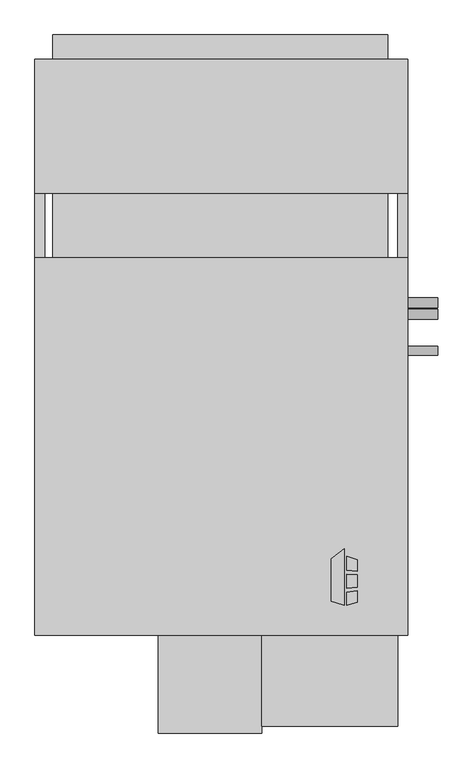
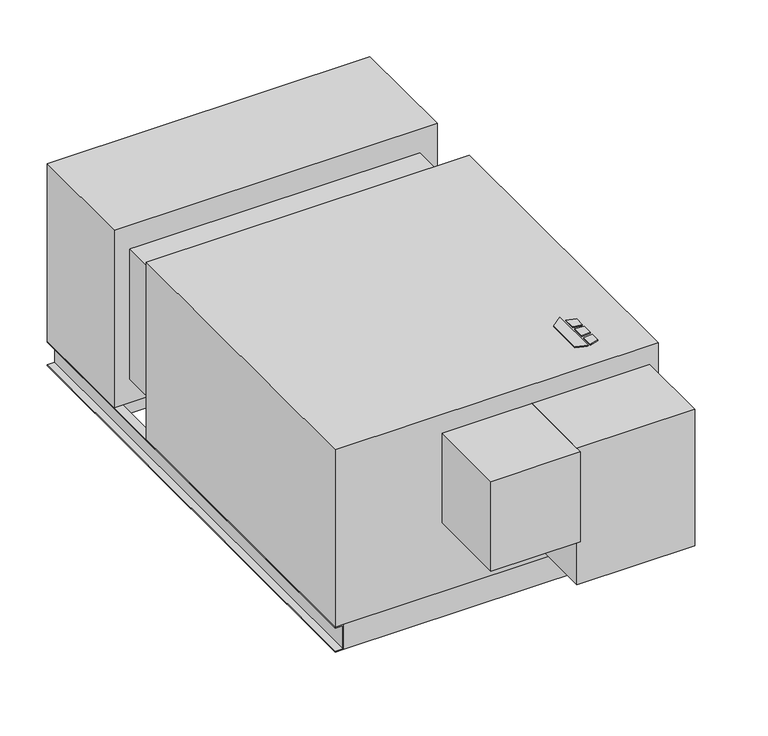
"""IFC4 building model written with IfcOpenShell, lengths in millimetres: proxy geometry, Horizontal_Direct_Drive_Blower_Coil_Unit_-_HDY_-_IEC_-_2-Pipe_Cool-EHeat_NFilterR_W-MixingBox_RH_2022 : Size 10 - 460v/60Hz/3Ph - 8 Row 9.9kW LH."""

from ifc_helpers import new_model, si_unit, point, frame, frame_2d, origin, origin_with_axes, place, context, project, spatial, polyline, circle_curve, trimmed, segment, composite_curve, outline, extrude, source, transform, mapped, element, save


def mechanical_equipment_a0d32894(model_context):
    return source(origin(), model_context, "Body", "SweptSolid", [
        extrude(outline(polyline([(-319.3980239, -267.6578476), (-286.8397272, -242.2205184), (-286.8397272, -384.175), (-319.3980239, -373.9554201), (-319.3980239, -267.6578476)])), origin_with_axes(), (0.0, 0.0, 1.0), 3.175),
        extrude(outline(polyline([(-280.0813942, -295.529852), (-280.0813942, -261.0499379), (-254.0, -269.2365115), (-254.0, -298.7322446), (-280.0813942, -295.529852)])), origin_with_axes(), (0.0, 0.0, 1.0), 3.175),
        extrude(outline(polyline([(-254.0, -377.1865115), (-280.0813942, -384.175), (-280.0813942, -350.9536996), (-254.0, -347.4118564), (-254.0, -377.1865115)])), origin_with_axes(), (0.0, 0.0, 1.0), 3.175),
        extrude(outline(polyline([(-254.0, -307.8138277), (-254.0, -339.063983), (-280.0813942, -341.805248), (-280.0813942, -305.9475378), (-254.0, -307.8138277)])), origin_with_axes(), (0.0, 0.0, 1.0), 3.175),
        extrude(outline(polyline([(-177.8, 890.905), (-177.8, 687.705), (-1022.35, 687.705), (-1022.35, 890.905), (-177.8, 890.905)])), frame((0.0, 0.0, -607.06), z_axis=(0.0, 0.0, 1.0), x_axis=(1.0, 0.0, 0.0)), (0.0, 0.0, 1.0), 60.96),
        extrude(outline(polyline([(-1022.35, 1053.465), (-177.8, 1053.465), (-177.8, 992.505), (-1022.35, 992.505), (-1022.35, 1053.465)])), frame((0.0, 0.0, -279.4), z_axis=(0.0, 0.0, 1.0), x_axis=(1.0, 0.0, 0.0)), (0.0, 0.0, 1.0), 203.2),
        extrude(outline(polyline([(-127.0, 992.505), (-127.0, 654.05), (-1066.8, 654.05), (-1066.8, 992.505), (-127.0, 992.505)])), frame((0.0, 0.0, -546.1), z_axis=(0.0, 0.0, 1.0), x_axis=(1.0, 0.0, 0.0)), (0.0, 0.0, 1.0), 546.1),
        extrude(outline(polyline([(-152.4, -434.975), (-152.4, -460.375), (-1041.4, -460.375), (-1041.4, -434.975), (-152.4, -434.975)])), frame((0.0, 0.0, -622.3), z_axis=(0.0, 0.0, 1.0), x_axis=(1.0, 0.0, 0.0)), (0.0, 0.0, 1.0), 76.2),
        extrude(outline(polyline([(-152.4, 992.505), (-152.4, 967.105), (-1041.4, 967.105), (-1041.4, 992.505), (-152.4, 992.505)])), frame((0.0, 0.0, -622.3), z_axis=(0.0, 0.0, 1.0), x_axis=(1.0, 0.0, 0.0)), (0.0, 0.0, 1.0), 76.2),
        extrude(outline(polyline([(-546.1, -1041.4), (-546.1, -1066.8), (-549.275, -1066.8), (-549.275, -1044.575), (-619.125, -1044.575), (-619.125, -1066.8), (-622.3, -1066.8), (-622.3, -1041.4), (-546.1, -1041.4)])), frame((0.0, -460.375, 0.0), z_axis=(0.0, 1.0, 0.0), x_axis=(0.0, 0.0, 1.0)), (0.0, 0.0, 1.0), 1452.88),
        extrude(outline(polyline([(-546.1, -152.4), (-622.3, -152.4), (-622.3, -127.0), (-619.125, -127.0), (-619.125, -149.225), (-549.275, -149.225), (-549.275, -127.0), (-546.1, -127.0), (-546.1, -152.4)])), frame((0.0, -460.375, 0.0), z_axis=(0.0, 1.0, 0.0), x_axis=(0.0, 0.0, 1.0)), (0.0, 0.0, 1.0), 1452.88),
        extrude(outline(composite_curve([segment(trimmed(circle_curve(frame_2d((377.825, -177.8)), 12.7), [point((390.525, -177.8))], [point((365.125, -177.8))], False, "CARTESIAN"), True, "CONTINUOUS"), segment(trimmed(circle_curve(frame_2d((377.825, -177.8)), 12.7), [point((365.125, -177.8))], [point((390.525, -177.8))], False, "CARTESIAN"), True, "CONTINUOUS")], self_intersect=False)), frame((-127.0, 0.0, 0.0), z_axis=(1.0, 0.0, 0.0), x_axis=(0.0, 1.0, 0.0)), (0.0, 0.0, 1.0), 76.2),
        extrude(outline(composite_curve([segment(trimmed(circle_curve(frame_2d((348.9715397, -419.1)), 12.7), [point((361.6715397, -419.1))], [point((336.2715397, -419.1))], False, "CARTESIAN"), True, "CONTINUOUS"), segment(trimmed(circle_curve(frame_2d((348.9715397, -419.1)), 12.7), [point((336.2715397, -419.1))], [point((361.6715397, -419.1))], False, "CARTESIAN"), True, "CONTINUOUS")], self_intersect=False)), frame((-127.0, 0.0, 0.0), z_axis=(1.0, 0.0, 0.0), x_axis=(0.0, 1.0, 0.0)), (0.0, 0.0, 1.0), 76.2),
        extrude(outline(composite_curve([segment(trimmed(circle_curve(frame_2d((257.175, -501.65)), 11.1125), [point((268.2875, -501.65))], [point((246.0625, -501.65))], False, "CARTESIAN"), True, "CONTINUOUS"), segment(trimmed(circle_curve(frame_2d((257.175, -501.65)), 11.1125), [point((246.0625, -501.65))], [point((268.2875, -501.65))], False, "CARTESIAN"), True, "CONTINUOUS")], self_intersect=False)), frame((-127.0, 0.0, 0.0), z_axis=(1.0, 0.0, 0.0), x_axis=(0.0, 1.0, 0.0)), (0.0, 0.0, 1.0), 76.2),
        extrude(outline(polyline([(-127.0, 492.125), (-127.0, -460.375), (-1066.8, -460.375), (-1066.8, 492.125), (-127.0, 492.125)])), frame((0.0, 0.0, -546.1), z_axis=(0.0, 0.0, 1.0), x_axis=(1.0, 0.0, 0.0)), (0.0, 0.0, 1.0), 546.1),
        extrude(outline(polyline([(-152.4, -688.975), (-495.3, -688.975), (-495.3, -460.375), (-152.4, -460.375), (-152.4, -688.975)])), frame((0.0, 0.0, -476.25), z_axis=(0.0, 0.0, 1.0), x_axis=(1.0, 0.0, 0.0)), (0.0, 0.0, 1.0), 419.1),
        extrude(outline(polyline([(-1022.35, 654.05), (-177.8, 654.05), (-177.8, 492.125), (-1022.35, 492.125), (-1022.35, 654.05)])), frame((0.0, 0.0, -473.075), z_axis=(0.0, 0.0, 1.0), x_axis=(1.0, 0.0, 0.0)), (0.0, 0.0, 1.0), 400.05),
        extrude(outline(polyline([(-495.3, -706.4375), (-755.65, -706.4375), (-755.65, -460.375), (-495.3, -460.375), (-495.3, -706.4375)])), frame((0.0, 0.0, -333.375), z_axis=(0.0, 0.0, 1.0), x_axis=(1.0, 0.0, 0.0)), (0.0, 0.0, 1.0), 276.225),
    ])


if __name__ == "__main__":
    model = new_model("IFC4")
    model_context = context("Model", 3, world=origin())
    ifc_project = project(units=[si_unit("LENGTHUNIT", "METRE", prefix="MILLI")], contexts=[model_context])
    site = spatial("IfcSite", under=ifc_project)
    building = spatial("IfcBuilding", under=site)
    placement = place(None, origin())
    mechanical_equipment_shape = mechanical_equipment_a0d32894(model_context)
    element("IfcBuildingElementProxy", 1, Name="Horizontal_Direct_Drive_Blower_Coil_Unit_-_HDY_-_IEC_-_2-Pipe_Cool-EHeat_NFilterR_W-MixingBox_RH_2022 : Size 10 - 460v/60Hz/3Ph - 8 Row 9.9kW LH", ObjectType="Horizontal_Direct_Drive_Blower_Coil_Unit_-_HDY_-_IEC_-_2-Pipe_Cool-EHeat_NFilterR_W-MixingBox_RH_2022 : Size 10 - 460v/60Hz/3Ph - 8 Row 9.9kW LH", at=placement, inside=building, context=model_context, shape_type="MappedRepresentation", body=[
        mapped(mechanical_equipment_shape, transform((0.0, 0.0, 0.0), x_axis=(1.0, 0.0, 0.0), y_axis=(0.0, 1.0, 0.0), z_axis=(0.0, 0.0, 1.0))),
    ])
    save(model, "model.ifc")
